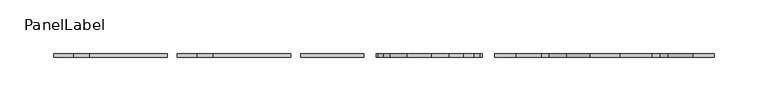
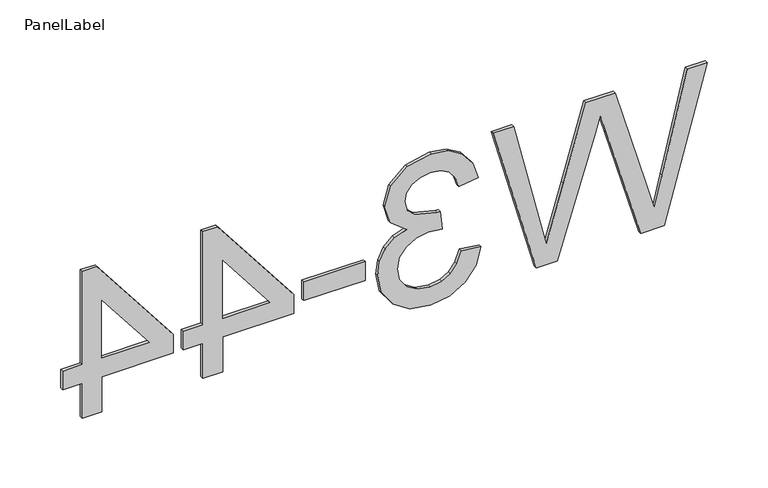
"""IFC4 building model written with IfcOpenShell, lengths in millimetres: fastener geometry, PanelLabel : Miranda."""

from ifc_helpers import new_model, si_unit, frame, origin, place, context, project, spatial, polyline, outline, extrude, source, transform, mapped, element, save


def panellabel_9aa3c6cf(model_context):
    return source(origin(), model_context, "Body", "SweptSolid", [
        extrude(outline(polyline([(1310.9113766, 268.5683654), (1460.9667612, 309.4892308), (1460.9667612, 290.1461538), (1362.3463766, 266.4069231), (1331.9030112, 259.08), (1358.8294535, 251.2401923), (1460.9667612, 221.4928846), (1460.9667612, 193.6139423), (1386.9282035, 171.9995192), (1331.9030112, 155.9169231), (1361.4671458, 148.8098077), (1460.9667612, 124.8507692), (1460.9667612, 105.5076923), (1310.9113766, 146.4651923), (1310.9113766, 166.5043269), (1426.6767612, 202.4795192), (1442.8326266, 207.4984615), (1423.3796458, 213.1401923), (1310.9113766, 245.9281731), (1310.9113766, 268.5683654)])), frame((0.0, 100.80625, 0.0), z_axis=(0.0, 1.0, 0.0), x_axis=(0.0, 0.0, 1.0)), (0.0, 0.0, 1.0), 3.175),
        extrude(outline(polyline([(1350.7698381, 93.7846154), (1353.1144535, 75.0276923), (1341.327266, 70.8284495), (1333.3683958, 64.6784135), (1328.8348622, 56.2753486), (1327.3236843, 45.3170192), (1329.4026987, 32.4582692), (1335.639742, 22.5302885), (1344.9449343, 16.1833413), (1356.2283958, 14.0676923), (1366.9394415, 16.165024), (1375.6264247, 22.4570192), (1381.3826386, 31.9820192), (1383.3013766, 43.7783654), (1381.2498381, 56.9301923), (1400.0067612, 54.8420192), (1399.7869535, 51.8379808), (1405.172242, 30.5532692), (1412.0045977, 23.4644712), (1421.7310881, 21.1015385), (1429.8319174, 22.8142067), (1436.4032516, 27.9522115), (1440.7581915, 35.7920192), (1442.2098381, 45.6100962), (1440.7444535, 55.4464904), (1436.3482997, 63.4877885), (1429.0213766, 69.3584856), (1418.7636843, 72.6830769), (1421.1082997, 91.44), (1437.9510641, 85.9173317), (1450.5258958, 76.0900962), (1458.3565448, 62.6451923), (1460.9667612, 46.2695192), (1455.8195977, 23.6476442), (1441.7519054, 7.8214904), (1422.8301266, 2.3446154), (1405.5385881, 7.5467308), (1393.1194535, 22.9332692), (1388.3752708, 11.191875), (1380.2973381, 2.4911538), (1369.3252708, -2.8941346), (1355.8986843, -4.6892308), (1337.6180112, -1.0990385), (1322.3413766, 9.6715385), (1312.010415, 25.928149), (1308.5667612, 45.9764423), (1311.5066891, 64.1105769), (1320.3264727, 78.8743269), (1333.8171698, 89.1411779), (1350.7698381, 93.7846154)])), frame((0.0, 100.80625, 0.0), z_axis=(0.0, 1.0, 0.0), x_axis=(0.0, 0.0, 1.0)), (0.0, 0.0, 1.0), 3.175),
        extrude(outline(polyline([(-75.0276923, 103.98125), (-16.4123077, 103.98125), (-16.4123077, 100.80625), (-75.0276923, 100.80625), (-75.0276923, 103.98125)])), frame((0.0, 0.0, 1355.4590689), z_axis=(0.0, 0.0, 1.0), x_axis=(1.0, 0.0, 0.0)), (0.0, 0.0, 1.0), 18.7569231),
        extrude(outline(polyline([(1310.9113766, -152.4), (1346.0806073, -152.4), (1346.0806073, -84.4061538), (1364.8375304, -84.4061538), (1458.6221458, -157.0892308), (1458.6221458, -171.1569231), (1364.8375304, -171.1569231), (1364.8375304, -189.9138462), (1346.0806073, -189.9138462), (1346.0806073, -171.1569231), (1310.9113766, -171.1569231), (1310.9113766, -152.4)]), holes=[polyline([(1364.8375304, -152.4), (1422.793492, -152.4), (1364.8375304, -107.4859615), (1364.8375304, -152.4)])]), frame((0.0, 100.80625, 0.0), z_axis=(0.0, 1.0, 0.0), x_axis=(0.0, 0.0, 1.0)), (0.0, 0.0, 1.0), 3.175),
        extrude(outline(polyline([(1310.9113766, -267.2861538), (1346.0806073, -267.2861538), (1346.0806073, -199.2923077), (1364.8375304, -199.2923077), (1458.6221458, -271.9753846), (1458.6221458, -286.0430769), (1364.8375304, -286.0430769), (1364.8375304, -304.8), (1346.0806073, -304.8), (1346.0806073, -286.0430769), (1310.9113766, -286.0430769), (1310.9113766, -267.2861538)]), holes=[polyline([(1364.8375304, -267.2861538), (1422.793492, -267.2861538), (1364.8375304, -222.3721154), (1364.8375304, -267.2861538)])]), frame((0.0, 100.80625, 0.0), z_axis=(0.0, 1.0, 0.0), x_axis=(0.0, 0.0, 1.0)), (0.0, 0.0, 1.0), 3.175),
    ])


if __name__ == "__main__":
    model = new_model("IFC4")
    model_context = context("Model", 3, world=origin())
    ifc_project = project(units=[si_unit("LENGTHUNIT", "METRE", prefix="MILLI")], contexts=[model_context])
    site = spatial("IfcSite", under=ifc_project)
    building = spatial("IfcBuilding", under=site)
    placement = place(None, origin())
    panellabel_shape = panellabel_9aa3c6cf(model_context)
    element("IfcFastener", 1, ObjectType="PanelLabel : Miranda", at=placement, inside=building, context=model_context, shape_type="MappedRepresentation", body=[
        mapped(panellabel_shape, transform((0.0, 0.0, 0.0), x_axis=(1.0, 0.0, 0.0), y_axis=(0.0, 1.0, 0.0), z_axis=(0.0, 0.0, 1.0))),
    ])
    save(model, "model.ifc")
